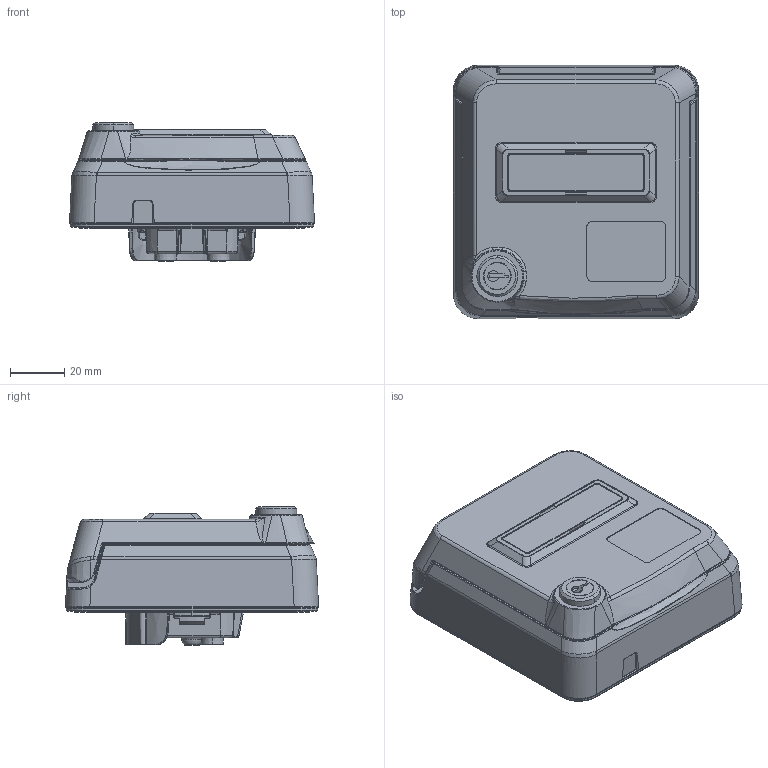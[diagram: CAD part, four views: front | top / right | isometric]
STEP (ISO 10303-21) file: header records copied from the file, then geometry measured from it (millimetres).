
FILE_DESCRIPTION((''),'2;1');
FILE_NAME('C00008076_SW0006','2026-03-30T07:03:40',('haas001'),('MENNEKES'),'CREO PARAMETRIC BY PTC INC, 2024153','CREO PARAMETRIC BY PTC INC, 2024153','');
FILE_SCHEMA(('AUTOMOTIVE_DESIGN { 1 0 10303 214 1 1 1 1 }'));
Products named in the file (1): C00008076_SW0006
Bounding box: 89.97 x 92.97 x 50.8 mm (x, y, z)
Volume: 268694 mm3; surface area: 35415.5 mm2
Topology: 1 solids, 1 shells, 1005 faces, 2440 edges, 1458 vertices
Faces by surface type: cylinder 311, plane 266, bspline 225, torus 107, cone 59, sphere 21, extrusion 16
Entity records: 58091 total; most frequent: CARTESIAN_POINT 21565, ORIENTED_EDGE 4878, DIRECTION 4107, PRESENTATION_STYLE_ASSIGNMENT 3461, STYLED_ITEM 2456, CURVE_STYLE 2455, EDGE_CURVE 2439, AXIS2_PLACEMENT_3D 1548
